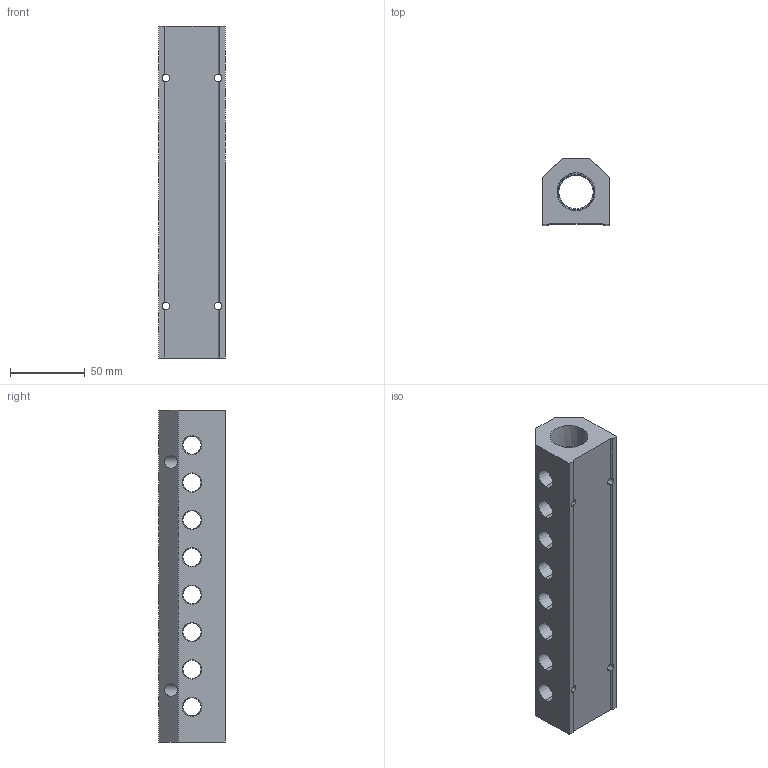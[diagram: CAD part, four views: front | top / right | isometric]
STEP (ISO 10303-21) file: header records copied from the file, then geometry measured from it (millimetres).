
FILE_DESCRIPTION (( 'STEP AP214' ), '1' );
FILE_NAME ('ALM8ACE-N4N12-222B.step', '2022-02-06T14:10:39', ( '' ), ( '' ), 'SwSTEP 2.0', 'SolidWorks 2020', '' );
FILE_SCHEMA (( 'AUTOMOTIVE_DESIGN' ));
Length unit declared in the file: millimetre
Products named in the file (1): ALM8ACE-N4N12-222B
Bounding box: 44.5 x 44.5 x 222 mm (x, y, z)
Volume: 262831 mm3; surface area: 62326.3 mm2
Topology: 1 solids, 1 shells, 363 faces, 998 edges, 652 vertices
Faces by surface type: plane 219, bspline 64, cone 58, cylinder 22
Entity records: 18086 total; most frequent: CARTESIAN_POINT 8690, ORIENTED_EDGE 1996, DIRECTION 1478, EDGE_CURVE 998, VECTOR 686, LINE 686, VERTEX_POINT 652, EDGE_LOOP 436
